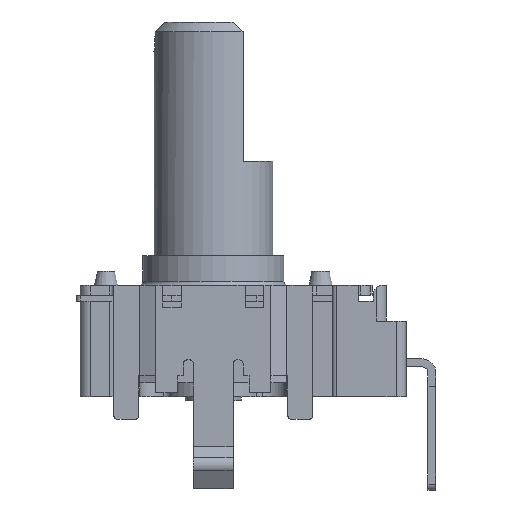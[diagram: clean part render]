
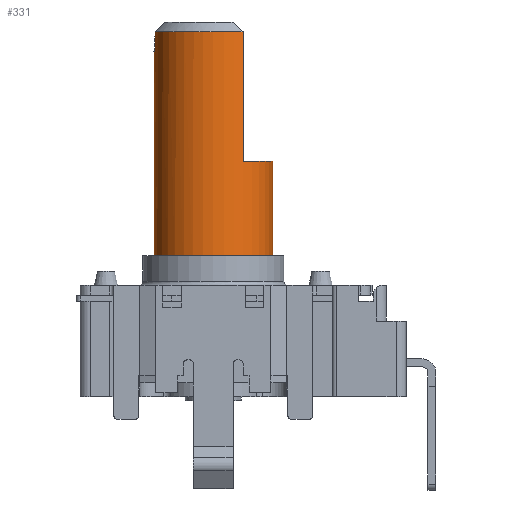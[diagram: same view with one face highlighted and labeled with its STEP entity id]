
A CAD part, left-side view. The second image highlights one B-rep face of the part: STEP entity #331.
In plain terms, the highlighted cylindrical face has radius 3 mm (diameter 6 mm), a full revolution.
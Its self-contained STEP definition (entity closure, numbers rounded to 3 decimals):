
#73=CARTESIAN_POINT('',(-3.,0.,1.1));
#74=VERTEX_POINT('',#73);
#75=CARTESIAN_POINT('',(0.,0.,1.1));
#76=DIRECTION('',(0.0,0.0,1.0));
#77=DIRECTION('',(-1.0,0.0,0.0));
#78=AXIS2_PLACEMENT_3D('',#75,#76,#77);
#79=CIRCLE('',#78,3.);
#80=EDGE_CURVE('',#74,#74,#79,.T.);
#185=CARTESIAN_POINT('',(0.667,2.925,13.25));
#186=VERTEX_POINT('',#185);
#211=CARTESIAN_POINT('',(2.598,-1.5,13.25));
#212=VERTEX_POINT('',#211);
#220=CARTESIAN_POINT('',(0.,0.,13.25));
#221=DIRECTION('',(0.0,0.0,1.0));
#222=DIRECTION('',(1.0,0.0,0.0));
#223=AXIS2_PLACEMENT_3D('',#220,#221,#222);
#224=CIRCLE('',#223,3.);
#225=EDGE_CURVE('',#212,#186,#224,.T.);
#261=CARTESIAN_POINT('',(0.0,0.0,13.75));
#262=DIRECTION('',(0.,0.,-1.0));
#263=DIRECTION('',(-1.0,0.0,0.0));
#264=AXIS2_PLACEMENT_3D('',#261,#262,#263);
#265=CYLINDRICAL_SURFACE('',#264,3.);
#266=ORIENTED_EDGE('',*,*,#80,.T.);
#267=EDGE_LOOP('',(#266));
#268=FACE_OUTER_BOUND('',#267,.T.);
#269=ORIENTED_EDGE('',*,*,#225,.F.);
#270=CARTESIAN_POINT('',(2.598,-1.5,6.75));
#271=VERTEX_POINT('',#270);
#272=CARTESIAN_POINT('',(2.598,-1.5,13.25));
#273=DIRECTION('',(0.0,0.0,-1.0));
#274=VECTOR('',#273,6.5);
#275=LINE('',#272,#274);
#276=EDGE_CURVE('',#212,#271,#275,.T.);
#277=ORIENTED_EDGE('',*,*,#276,.T.);
#278=CARTESIAN_POINT('',(-2.598,-1.5,6.75));
#279=VERTEX_POINT('',#278);
#280=CARTESIAN_POINT('',(0.,0.,6.75));
#281=DIRECTION('',(0.0,0.0,-1.0));
#282=DIRECTION('',(-1.0,0.0,0.0));
#283=AXIS2_PLACEMENT_3D('',#280,#281,#282);
#284=CIRCLE('',#283,3.);
#285=EDGE_CURVE('',#271,#279,#284,.T.);
#286=ORIENTED_EDGE('',*,*,#285,.T.);
#287=CARTESIAN_POINT('',(-2.598,-1.5,13.25));
#288=VERTEX_POINT('',#287);
#289=CARTESIAN_POINT('',(-2.598,-1.5,6.75));
#290=DIRECTION('',(0.0,0.0,1.0));
#291=VECTOR('',#290,6.5);
#292=LINE('',#289,#291);
#293=EDGE_CURVE('',#279,#288,#292,.T.);
#294=ORIENTED_EDGE('',*,*,#293,.T.);
#295=CARTESIAN_POINT('',(-0.667,2.925,13.25));
#296=VERTEX_POINT('',#295);
#297=CARTESIAN_POINT('',(0.,0.,13.25));
#298=DIRECTION('',(0.0,0.0,1.0));
#299=DIRECTION('',(-1.0,0.0,0.0));
#300=AXIS2_PLACEMENT_3D('',#297,#298,#299);
#301=CIRCLE('',#300,3.);
#302=EDGE_CURVE('',#296,#288,#301,.T.);
#303=ORIENTED_EDGE('',*,*,#302,.F.);
#304=CARTESIAN_POINT('',(-0.5,2.958,12.25));
#305=VERTEX_POINT('',#304);
#306=CARTESIAN_POINT('',(0.,0.,9.25));
#307=DIRECTION('',(0.986,0.,0.164));
#308=DIRECTION('',(-0.164,0.,0.986));
#309=AXIS2_PLACEMENT_3D('',#306,#307,#308);
#310=ELLIPSE('',#309,18.248,3.);
#311=EDGE_CURVE('',#305,#296,#310,.T.);
#312=ORIENTED_EDGE('',*,*,#311,.F.);
#313=CARTESIAN_POINT('',(0.5,2.958,12.25));
#314=VERTEX_POINT('',#313);
#315=CARTESIAN_POINT('',(0.,0.,12.25));
#316=DIRECTION('',(0.0,0.0,-1.0));
#317=DIRECTION('',(-1.0,0.0,0.0));
#318=AXIS2_PLACEMENT_3D('',#315,#316,#317);
#319=CIRCLE('',#318,3.);
#320=EDGE_CURVE('',#305,#314,#319,.T.);
#321=ORIENTED_EDGE('',*,*,#320,.T.);
#322=CARTESIAN_POINT('',(0.,0.,9.25));
#323=DIRECTION('',(-0.986,0.,0.164));
#324=DIRECTION('',(-0.164,0.,-0.986));
#325=AXIS2_PLACEMENT_3D('',#322,#323,#324);
#326=ELLIPSE('',#325,18.248,3.);
#327=EDGE_CURVE('',#186,#314,#326,.T.);
#328=ORIENTED_EDGE('',*,*,#327,.F.);
#329=EDGE_LOOP('',(#269,#277,#286,#294,#303,#312,#321,#328));
#330=FACE_BOUND('',#329,.T.);
#331=ADVANCED_FACE('',(#268,#330),#265,.T.);
